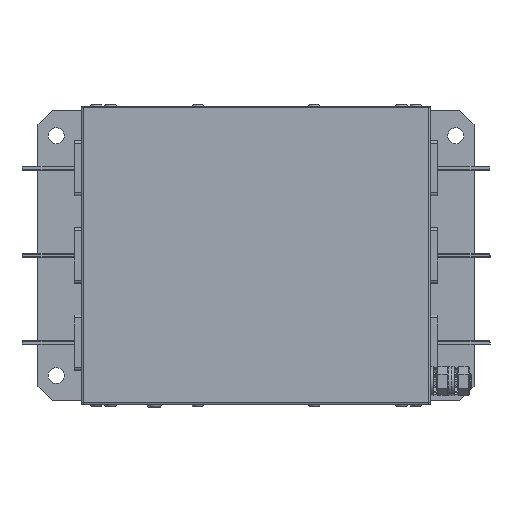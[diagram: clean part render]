
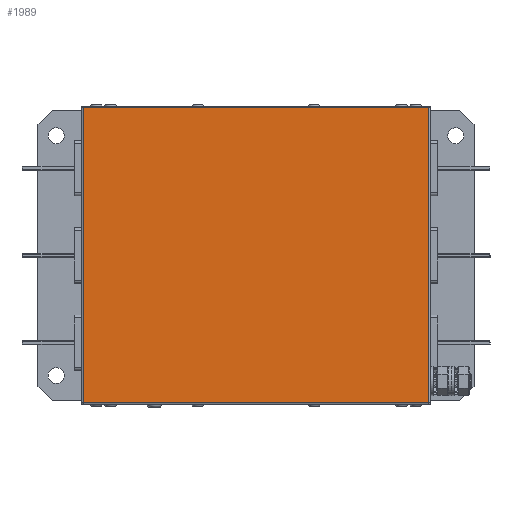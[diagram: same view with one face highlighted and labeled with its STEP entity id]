
A CAD part, top view. The second image highlights one B-rep face of the part: STEP entity #1989.
In plain terms, the highlighted planar face has unit normal (0, 0, 1).
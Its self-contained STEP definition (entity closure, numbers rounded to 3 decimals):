
#1989=ADVANCED_FACE('',(#2457),#2459,.T.);
#2457=FACE_BOUND('',#2458,.T.);
#2458=EDGE_LOOP('',(#3986,#3987,#3988,#3989));
#2459=PLANE('',#2460);
#2460=AXIS2_PLACEMENT_3D('',#2461,#2462,#2463);
#2461=CARTESIAN_POINT('',(0.,0.,100.));
#2462=DIRECTION('',(0.,0.,1.));
#2463=DIRECTION('',(-1.,0.,0.));
#3986=ORIENTED_EDGE('',*,*,#4797,.T.);
#3987=ORIENTED_EDGE('',*,*,#4779,.T.);
#3988=ORIENTED_EDGE('',*,*,#4798,.T.);
#3989=ORIENTED_EDGE('',*,*,#4744,.T.);
#4744=EDGE_CURVE('',#5217,#5215,#5218,.T.);
#4779=EDGE_CURVE('',#5277,#5275,#5278,.T.);
#4797=EDGE_CURVE('',#5215,#5277,#5306,.T.);
#4798=EDGE_CURVE('',#5275,#5217,#5307,.T.);
#5215=VERTEX_POINT('',#6060);
#5217=VERTEX_POINT('',#6065);
#5218=LINE('',#6066,#6067);
#5275=VERTEX_POINT('',#6203);
#5277=VERTEX_POINT('',#6208);
#5278=LINE('',#6209,#6210);
#5306=LINE('',#6281,#6282);
#5307=LINE('',#6284,#6285);
#6060=CARTESIAN_POINT('',(119.,101.5,100.));
#6065=CARTESIAN_POINT('',(119.,-101.5,100.));
#6066=CARTESIAN_POINT('',(119.,-101.5,100.));
#6067=VECTOR('',#6068,1.);
#6068=DIRECTION('',(0.,1.,0.));
#6203=CARTESIAN_POINT('',(-119.,-101.5,100.));
#6208=CARTESIAN_POINT('',(-119.,101.5,100.));
#6209=CARTESIAN_POINT('',(-119.,101.5,100.));
#6210=VECTOR('',#6211,1.);
#6211=DIRECTION('',(0.,-1.,0.));
#6281=CARTESIAN_POINT('',(119.,101.5,100.));
#6282=VECTOR('',#6283,1.);
#6283=DIRECTION('',(-1.,0.,0.));
#6284=CARTESIAN_POINT('',(-119.,-101.5,100.));
#6285=VECTOR('',#6286,1.);
#6286=DIRECTION('',(1.,0.,0.));
